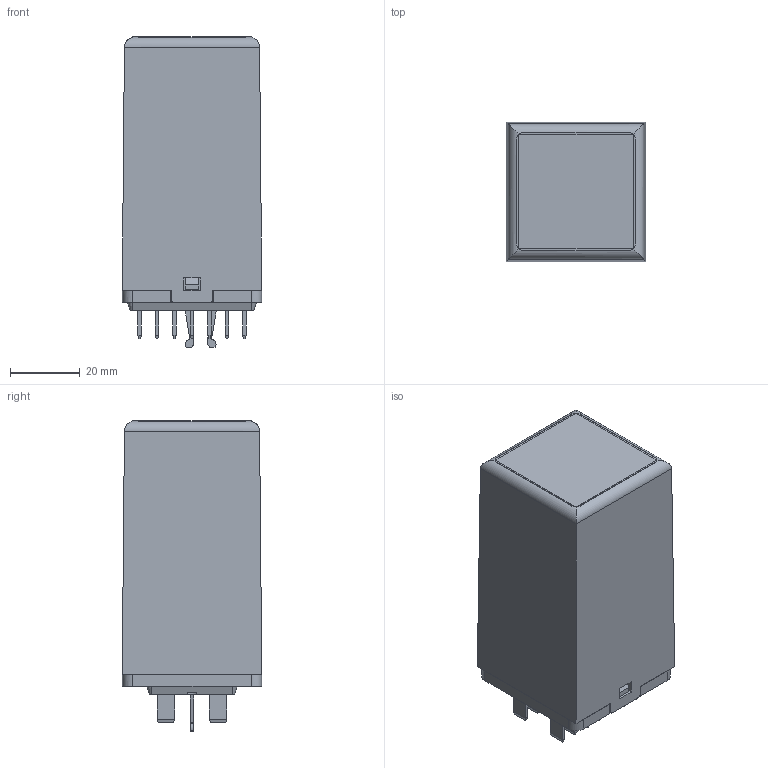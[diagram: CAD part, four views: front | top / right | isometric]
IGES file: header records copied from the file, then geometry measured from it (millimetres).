
Global section: file name: No Iges File Name specified; native system: Autodesk Inventor 2011; preprocessor: AutoDesk Inventor Iges Exporter R2011; author: oey; date: 20110309.072202; units: millimetre
Bounding box: 40 x 40.06 x 88.95 mm (x, y, z)
Volume: 29504.2 mm3; surface area: 35751.8 mm2
Topology: 1 solids, 1 shells, 1503 faces, 4296 edges, 2734 vertices
Faces by surface type: plane 773, bspline 391, cylinder 163, revolution 142, sphere 28, cone 4, torus 2
